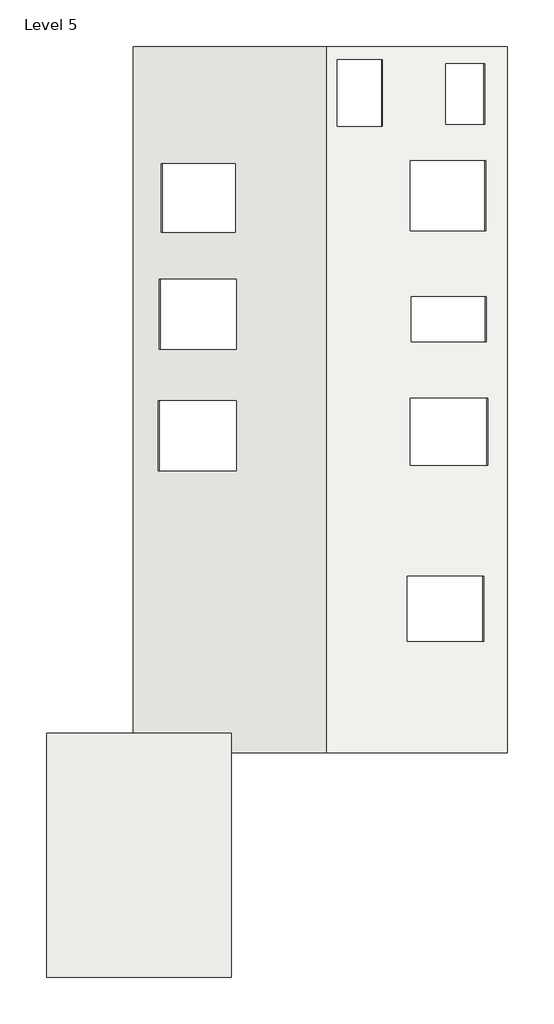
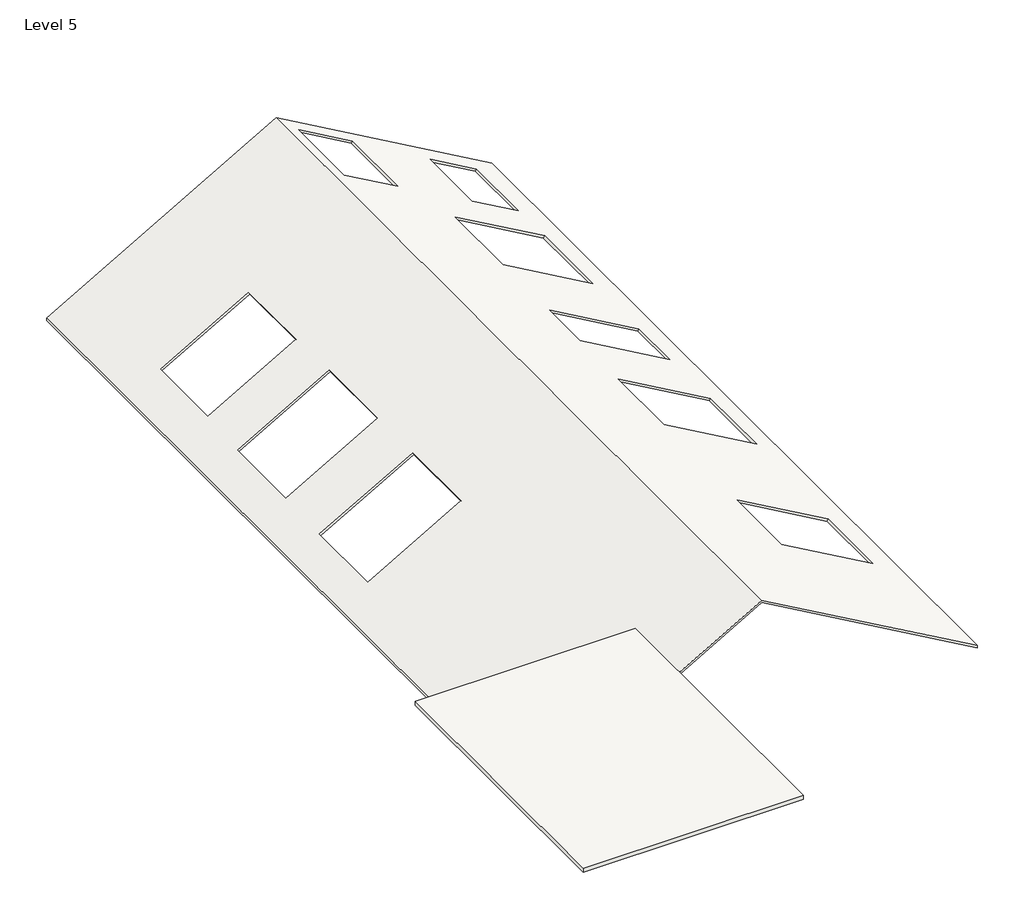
# One storey: 1 roof, 1 slab.
"""IFC4 building model written with IfcOpenShell, lengths in millimetres."""

from ifc_helpers import new_model, si_unit, frame, origin, place, context, project, spatial, polyline, outline, extrude, faceted_brep, element, save

model = new_model("IFC4")

# Units and contexts
model_context = context("Model", 3, world=origin())
ifc_project = project(units=[si_unit("LENGTHUNIT", "METRE", prefix="MILLI")], contexts=[model_context])

# Site, building, storey
site = spatial("IfcSite", under=ifc_project)
building = spatial("IfcBuilding", under=site)
storey = spatial("IfcBuildingStorey", under=building, Name="Level 5", Elevation=12040.0)

# Roof
placement = place(None, origin())
element("IfcRoof", 1, ObjectType="Generic - 50mm", at=placement, inside=storey, context=model_context, shape_type="Brep", body=[
    faceted_brep([(-5469.6989418, 24410.5978406, 9235.8163953), (-122.9466605, 24410.5978406, 12297.9302989), (4897.3010582, 24410.5978406, 9422.8073213), (4897.3010582, 24410.5978406, 9365.1880651), (-122.9466605, 24410.5978406, 12240.3110427), (-5469.6989418, 24410.5978406, 9178.1971391), (4897.3010582, 4817.0467998, 9422.8073213), (-122.9466605, 4817.0467998, 12297.9302989), (-2891.3974698, 4817.0467998, 10712.423571), (-2891.3974698, 4817.0467998, 10654.8043148), (-122.9466605, 4817.0467998, 12240.3110427), (4897.3010582, 4817.0467998, 9365.1880651), (-5469.6989418, 5365.5198069, 9235.8163953), (-2891.3974698, 5365.5198069, 10712.423571), (-2891.3974698, 4825.5198069, 10712.423571), (-4694.1161278, 21155.5746587, 9679.996861), (-2646.1896578, 21155.5746587, 10852.855409), (-2646.1896578, 19255.5746587, 10852.855409), (-4694.1161278, 19255.5746587, 9679.996861), (-4748.3850798, 17955.3976539, 9648.9167391), (-2613.7340857, 17955.3976539, 10871.4428904), (-2613.7340857, 16015.3976539, 10871.4428904), (-4748.3850798, 16015.3976539, 9648.9167391), (-4783.8128371, 14590.4750609, 9628.6270712), (-2614.4520707, 14590.4750609, 10871.0316965), (-2614.4520707, 12650.4750609, 10871.0316965), (-4783.8128371, 12650.4750609, 9628.6270712), (1438.8461393, 22200.5772713, 11403.4831289), (189.2638865, 22200.5772713, 12119.1256327), (189.2638865, 24040.5772713, 12119.1256327), (1438.8461393, 24040.5772713, 11403.4831289), (3192.9544685, 22250.4757913, 10398.8958166), (3192.9544685, 23940.4757913, 10398.8958166), (4268.9836307, 23940.4757913, 9782.648105), (4268.9836307, 22250.4757913, 9782.648105), (2215.5324317, 21241.430742, 10958.6706952), (4298.1568316, 21241.430742, 9765.9404553), (4298.1568316, 19301.430742, 9765.9404553), (2215.5324317, 19301.430742, 10958.6706952), (4317.0512571, 17464.9083545, 9755.1195158), (4317.0512571, 16224.9083545, 9755.1195158), (2235.1278367, 16224.9083545, 10947.4483009), (2235.1278367, 17464.9083545, 10947.4483009), (2209.6671394, 14660.6037976, 10962.0297798), (4361.7123526, 14660.6037976, 9729.5418652), (4361.7123526, 12800.6037976, 9729.5418652), (2209.6671394, 12800.6037976, 10962.0297798), (4245.0439495, 9710.4066403, 9796.3584897), (4245.0439495, 7910.4066403, 9796.3584897), (2127.6930184, 7910.4066403, 11008.9768015), (2127.6930184, 9710.4066403, 11008.9768015), (164.4151884, 22200.5772713, 12075.7373601), (1413.9974413, 22200.5772713, 11360.0948562), (1413.9974413, 24040.5772713, 11360.0948562), (164.4151884, 24040.5772713, 12075.7373601), (3168.1057705, 23940.4757913, 10355.507544), (3168.1057705, 22250.4757913, 10355.507544), (4244.1349327, 22250.4757913, 9739.2598323), (4244.1349327, 23940.4757913, 9739.2598323), (4273.3081336, 21241.430742, 9722.5521826), (2190.6837336, 21241.430742, 10915.2824225), (2190.6837336, 19301.430742, 10915.2824225), (4273.3081336, 19301.430742, 9722.5521826), (4292.2025591, 16224.9083545, 9711.7312431), (4292.2025591, 17464.9083545, 9711.7312431), (2210.2791387, 17464.9083545, 10904.0600282), (2210.2791387, 16224.9083545, 10904.0600282), (4336.8636546, 14660.6037976, 9686.1535925), (2184.8184413, 14660.6037976, 10918.6415071), (2184.8184413, 12800.6037976, 10918.6415071), (4336.8636546, 12800.6037976, 9686.1535925), (4220.1952515, 7910.4066403, 9752.970217), (4220.1952515, 9710.4066403, 9752.970217), (2102.8443203, 9710.4066403, 10965.5885288), (2102.8443203, 7910.4066403, 10965.5885288), (-2891.3974698, 4825.5198069, 10654.8043148), (-2891.3974698, 5365.5198069, 10654.8043148), (-5469.6989418, 5365.5198069, 9178.1971391), (-2621.3409598, 21155.5746587, 10809.4671364), (-4669.2674297, 21155.5746587, 9636.6085883), (-4669.2674297, 19255.5746587, 9636.6085883), (-2621.3409598, 19255.5746587, 10809.4671364), (-2588.8853877, 17955.3976539, 10828.0546178), (-4723.5363818, 17955.3976539, 9605.5284665), (-4723.5363818, 16015.3976539, 9605.5284665), (-2588.8853877, 16015.3976539, 10828.0546178), (-2589.6033727, 14590.4750609, 10827.6434239), (-4758.964139, 14590.4750609, 9585.2387986), (-4758.964139, 12650.4750609, 9585.2387986), (-2589.6033727, 12650.4750609, 10827.6434239)], [[[0, 1, 2, 3, 4, 5]], [[6, 7, 8, 9, 10, 11]], [[1, 0, 12, 13, 14, 8, 7], [15, 16, 17, 18], [19, 20, 21, 22], [23, 24, 25, 26]], [[2, 1, 7, 6], [27, 28, 29, 30], [31, 32, 33, 34], [35, 36, 37, 38], [39, 40, 41, 42], [43, 44, 45, 46], [47, 48, 49, 50]], [[3, 2, 6, 11]], [[4, 3, 11, 10], [51, 52, 53, 54], [55, 56, 57, 58], [59, 60, 61, 62], [63, 64, 65, 66], [67, 68, 69, 70], [71, 72, 73, 74]], [[5, 4, 10, 9, 75, 76, 77], [78, 79, 80, 81], [82, 83, 84, 85], [86, 87, 88, 89]], [[0, 5, 77, 12]], [[15, 79, 78, 16]], [[16, 78, 81, 17]], [[17, 81, 80, 18]], [[79, 15, 18, 80]], [[19, 83, 82, 20]], [[20, 82, 85, 21]], [[21, 85, 84, 22]], [[83, 19, 22, 84]], [[23, 87, 86, 24]], [[24, 86, 89, 25]], [[25, 89, 88, 26]], [[87, 23, 26, 88]], [[27, 52, 51, 28]], [[28, 51, 54, 29]], [[29, 54, 53, 30]], [[52, 27, 30, 53]], [[31, 56, 55, 32]], [[32, 55, 58, 33]], [[33, 58, 57, 34]], [[56, 31, 34, 57]], [[35, 60, 59, 36]], [[36, 59, 62, 37]], [[37, 62, 61, 38]], [[60, 35, 38, 61]], [[39, 64, 63, 40]], [[40, 63, 66, 41]], [[41, 66, 65, 42]], [[64, 39, 42, 65]], [[43, 68, 67, 44]], [[44, 67, 70, 45]], [[45, 70, 69, 46]], [[68, 43, 46, 69]], [[47, 72, 71, 48]], [[48, 71, 74, 49]], [[49, 74, 73, 50]], [[72, 47, 50, 73]], [[13, 76, 75, 9, 8, 14]], [[76, 13, 12, 77]]]),
])

# Slab
element("IfcSlab", 2, ObjectType="Floor_100", at=placement, inside=storey, context=model_context, shape_type="SweptSolid", body=[
    extrude(outline(polyline([(-7880.3974698, 5365.5198069), (-2751.3974698, 5365.5198069), (-2751.3974698, -1412.4112752), (-7880.3974698, -1412.4112752), (-7880.3974698, 5365.5198069)])), frame((0.0, 0.0, 12090.0), z_axis=(0.0, 0.0, 1.0), x_axis=(1.0, 0.0, 0.0)), (0.0, 0.0, 1.0), 100.0),
])

save(model, "model.ifc")
